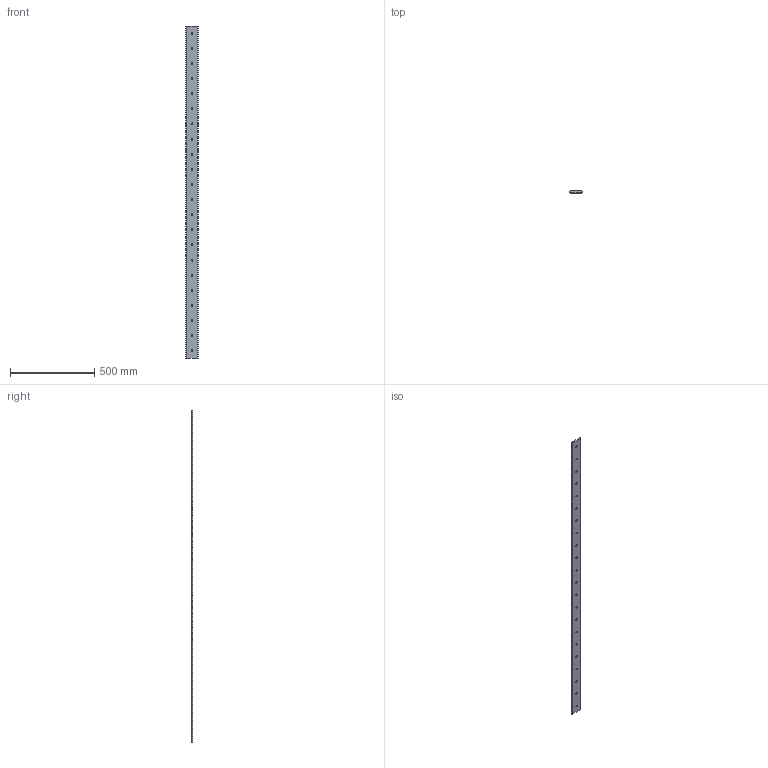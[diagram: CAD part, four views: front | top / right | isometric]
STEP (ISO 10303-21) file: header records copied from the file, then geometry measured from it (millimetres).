
FILE_DESCRIPTION(('STEP AP203'),'1');
FILE_NAME('slide_l76l1976p3.stp','2022-07-01T06:25:16',('TraceParts'),('TraceParts S.A.'),'Spatial InterOp 3D',' ',' ');
FILE_SCHEMA(('CONFIG_CONTROL_DESIGN'));
Length unit declared in the file: millimetre
Products named in the file (1): 1
Bounding box: 76.45 x 9.43 x 1976 mm (x, y, z)
Volume: 1297509.6 mm3; surface area: 319794.1 mm2
Topology: 1 solids, 1 shells, 56 faces, 162 edges, 108 vertices
Faces by surface type: cylinder 48, plane 8
Entity records: 2034 total; most frequent: DIRECTION 372, CARTESIAN_POINT 327, ORIENTED_EDGE 324, EDGE_CURVE 162, AXIS2_PLACEMENT_3D 153, VERTEX_POINT 108, EDGE_LOOP 100, CIRCLE 96
